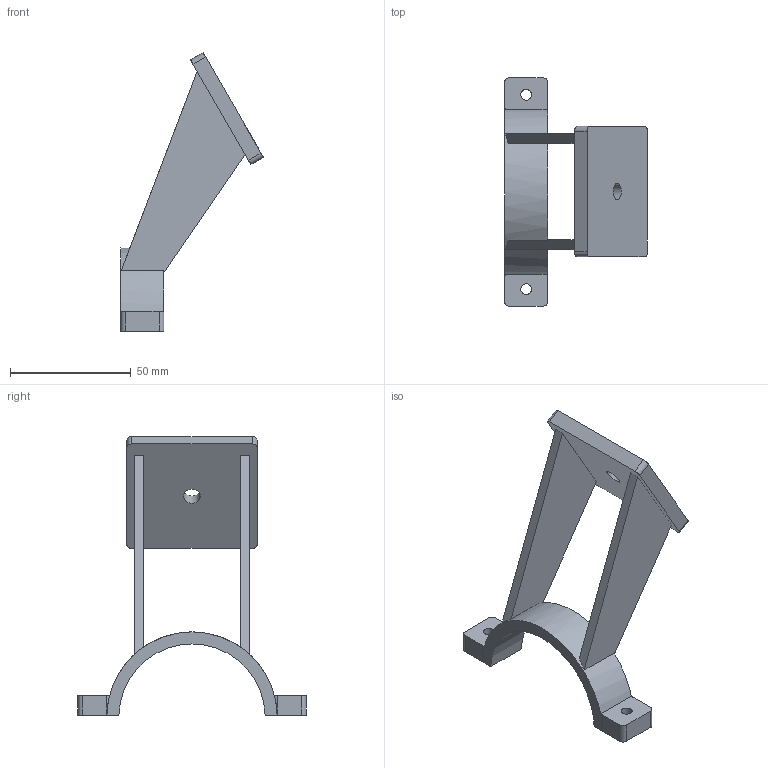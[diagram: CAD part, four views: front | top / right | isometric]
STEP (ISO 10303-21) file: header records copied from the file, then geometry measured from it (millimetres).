
FILE_DESCRIPTION(('Open CASCADE Model'),'2;1');
FILE_NAME('Open CASCADE Shape Model','2026-09-19T10:08:23',('Author'),( 'Open CASCADE'),'Open CASCADE STEP processor 7.9','Open CASCADE 7.9' ,'Unknown');
FILE_SCHEMA(('AUTOMOTIVE_DESIGN { 1 0 10303 214 1 1 1 1 }'));
Length unit declared in the file: millimetre
Products named in the file (1): Open CASCADE STEP translator 7.9 6
Bounding box: 59.22 x 94.6 x 115.4 mm (x, y, z)
Volume: 42692.2 mm3; surface area: 20734.1 mm2
Topology: 1 solids, 1 shells, 43 faces, 123 edges, 82 vertices
Faces by surface type: plane 26, cylinder 17
Full cylindrical faces by diameter (mm): 4.5 x2, 6.8 x1
Entity records: 3258 total; most frequent: CARTESIAN_POINT 887, DIRECTION 417, ORIENTED_EDGE 246, PCURVE 246, DEFINITIONAL_REPRESENTATION 246, LINE 233, VECTOR 233, EDGE_CURVE 123
